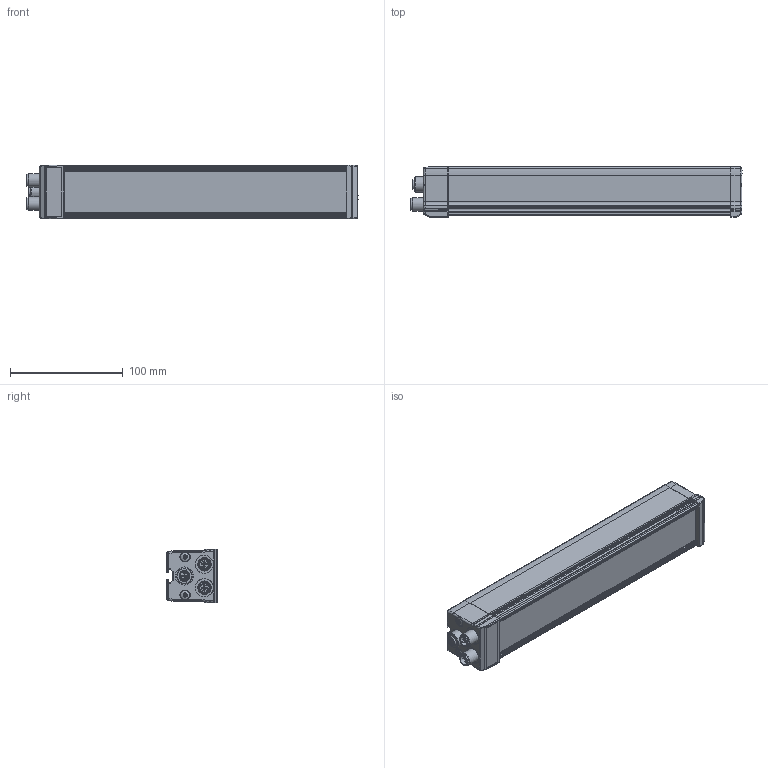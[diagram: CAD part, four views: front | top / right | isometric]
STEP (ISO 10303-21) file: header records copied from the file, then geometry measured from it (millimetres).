
FILE_DESCRIPTION(/* description */ (''),/* implementation_level */ '2;1');
FILE_NAME(/* name */ 'C:\#Vault-WorkDir\Konstruktions-Dokumente\Projekte\VISOR\Zubehör\153-01219_LB 250 xK-24--Axx-2L5.stp',/* time_stamp */ '2016-04-29T09:35:20+02:00',/* author */ ('Sandra.Stahl'),/* organization */ (''),/* preprocessor_version */ 'ST-DEVELOPER v16.1',/* originating_system */ 'Autodesk Inventor 2016',/* authorisation */ '');
FILE_SCHEMA (('AUTOMOTIVE_DESIGN { 1 0 10303 214 3 1 1 }'));
Length unit declared in the file: millimetre
Products named in the file (1): GH-ENG-0015489
Bounding box: 295.05 x 45 x 47.63 mm (x, y, z)
Volume: 432421 mm3; surface area: 116560.8 mm2
Topology: 1 solids, 2 shells, 1031 faces, 2620 edges, 1650 vertices
Faces by surface type: plane 464, cylinder 283, bspline 154, cone 63, torus 53, sphere 14
Full cylindrical faces by diameter (mm): 1 x10, 8 x4, 8.25 x1, 8.3 x2, 8.8 x1, 8.9 x1, 9.5 x1, 10.75 x2, 12 x2, 14 x1, 16 x3
Entity records: 41168 total; most frequent: CARTESIAN_POINT 16171, ORIENTED_EDGE 5032, DIRECTION 4850, EDGE_CURVE 2516, AXIS2_PLACEMENT_3D 1726, VERTEX_POINT 1637, LINE 1398, VECTOR 1398
